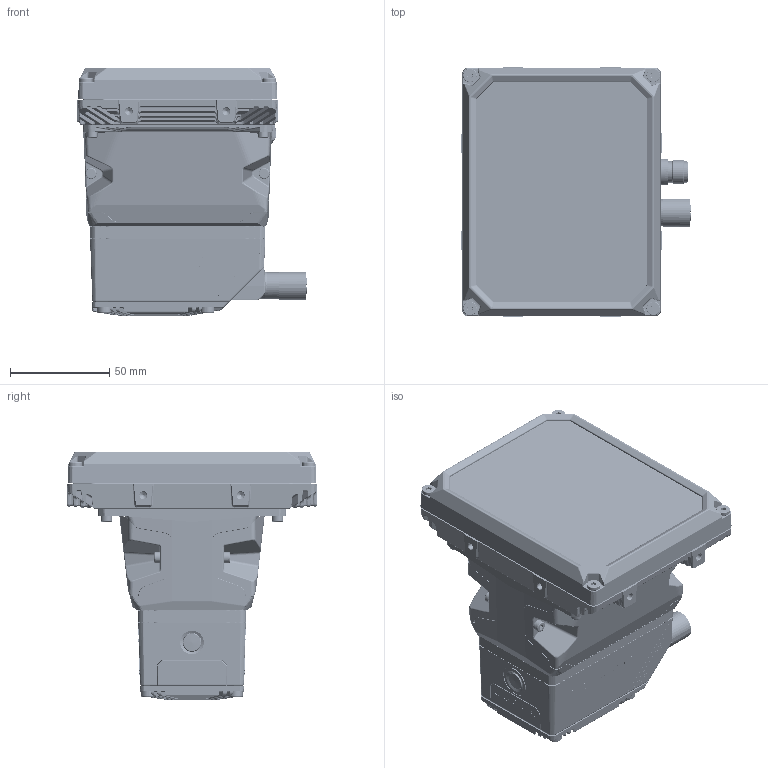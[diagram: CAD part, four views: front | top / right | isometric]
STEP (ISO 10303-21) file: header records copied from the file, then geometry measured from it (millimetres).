
FILE_DESCRIPTION(/* description */ (''),/* implementation_level */ '2;1');
FILE_NAME(/* name */ 'AP035884_00-P2X C-Mount 36 led 0_ landscape.stp',/* time_stamp */ '2022-03-16T16:15:08+01:00',/* author */ (''),/* organization */ (''),/* preprocessor_version */ 'ST-DEVELOPER v16.7',/* originating_system */ 'SIEMENS PLM Software NX 1946',/* authorisation */ '');
FILE_SCHEMA (('AUTOMOTIVE_DESIGN { 1 0 10303 214 3 1 1 1 }'));
Products named in the file (1): FGutB01403CDtynq
Bounding box: 115.45 x 126 x 124.8 mm (x, y, z)
Volume: 607072.3 mm3; surface area: 117987.9 mm2
Topology: 1 solids, 25 shells, 7415 faces, 17781 edges, 10375 vertices
Faces by surface type: bspline 2370, cylinder 2254, plane 2072, cone 264, torus 243, sphere 128, extrusion 84
Full cylindrical faces by diameter (mm): 0.6 x7, 2.3 x4, 3.2 x5, 3.3 x17, 3.5 x5, 5.5 x8, 6.2 x4, 6.9 x4, 7 x3, 9.5 x2, 10.5 x1, 10.7 x1, 10.8 x1, 11.15 x1, 11.85 x1, 12.2 x1, 13.5 x2, 14 x1, 15 x1, 16 x1
Entity records: 286090 total; most frequent: CARTESIAN_POINT 106607, ORIENTED_EDGE 34528, DIRECTION 30175, EDGE_CURVE 17264, AXIS2_PLACEMENT_3D 11740, VERTEX_POINT 10288, EDGE_LOOP 7825, ADVANCED_FACE 7413
